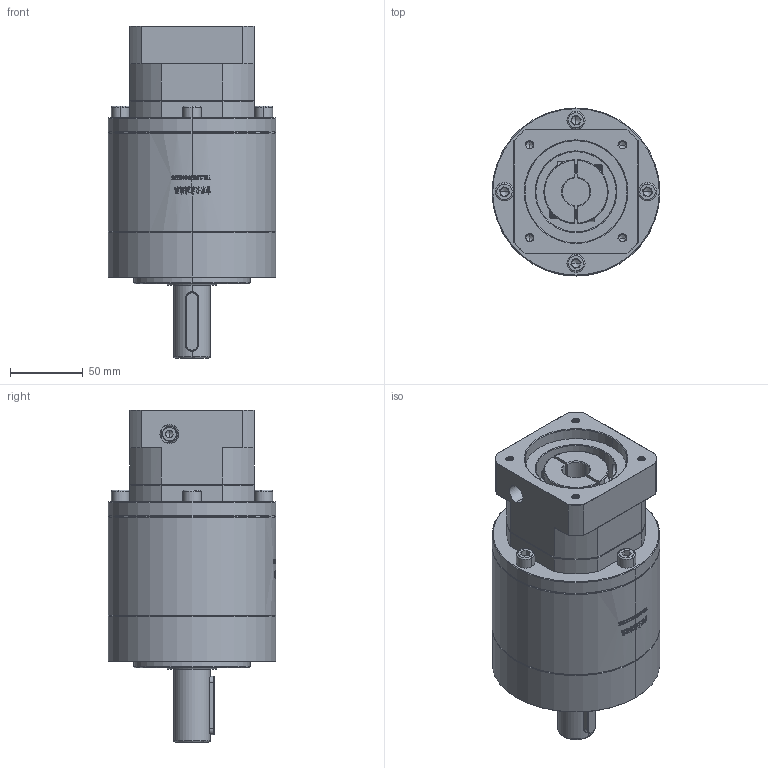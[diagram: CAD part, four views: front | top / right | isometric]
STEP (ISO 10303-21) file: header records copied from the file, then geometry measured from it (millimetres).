
FILE_DESCRIPTION (( 'STEP AP214' ), '1' );
FILE_NAME ('ZE120A-D25-L3-19-70-90-M6.step', '2023-03-13T06:50:11', ( '' ), ( '' ), 'SwSTEP 2.0', 'SolidWorks 2016', '' );
FILE_SCHEMA (( 'AUTOMOTIVE_DESIGN' ));
Length unit declared in the file: millimetre
Products named in the file (1): ZE120A-D25-L3-19-70-90-M6
Bounding box: 115 x 115 x 227.5 mm (x, y, z)
Volume: 1513129.9 mm3; surface area: 130767.3 mm2
Topology: 5 solids, 5 shells, 1990 faces, 5294 edges, 3392 vertices
Faces by surface type: plane 856, cylinder 494, bspline 348, cone 292
Entity records: 115824 total; most frequent: CARTESIAN_POINT 49154, ORIENTED_EDGE 10512, DIRECTION 7764, EDGE_CURVE 5256, VERTEX_POINT 3392, LINE 2784, VECTOR 2784, AXIS2_PLACEMENT_3D 2490
